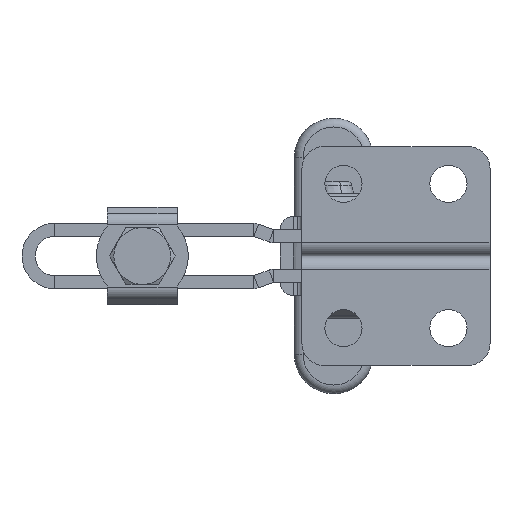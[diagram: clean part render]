
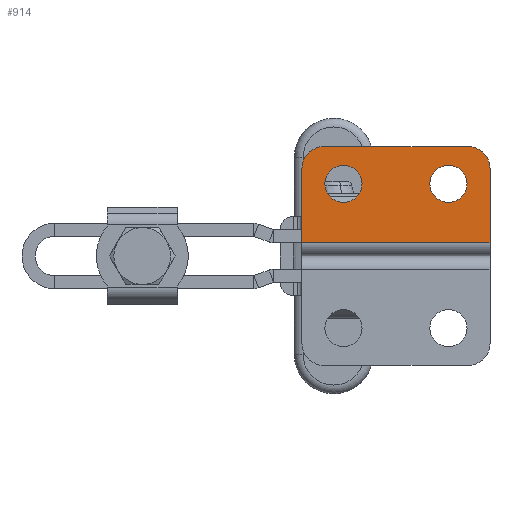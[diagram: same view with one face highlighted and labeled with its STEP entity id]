
A CAD part, front view. The second image highlights one B-rep face of the part: STEP entity #914.
In plain terms, the highlighted planar face has unit normal (0, -1, 0).
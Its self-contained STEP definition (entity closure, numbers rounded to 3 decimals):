
#27 = EDGE_CURVE ( 'NONE', #974, #1736, #481, .T. ) ;
#104 = DIRECTION ( 'NONE',  ( 0., 1., 0. ) ) ;
#141 = EDGE_CURVE ( 'NONE', #8863, #11666, #7803, .T. ) ;
#177 = CARTESIAN_POINT ( 'NONE',  ( 0., -3., 0. ) ) ;
#207 = FACE_BOUND ( 'NONE', #2457, .T. ) ;
#405 = VERTEX_POINT ( 'NONE', #2546 ) ;
#481 = LINE ( 'NONE', #6103, #10079 ) ;
#772 = CIRCLE ( 'NONE', #2289, 5. ) ;
#914 = ADVANCED_FACE ( 'NONE', ( #10590, #207, #10126 ), #9065, .F. ) ;
#932 = CARTESIAN_POINT ( 'NONE',  ( -9.5, -3., 13.5 ) ) ;
#974 = VERTEX_POINT ( 'NONE', #1783 ) ;
#1061 = CARTESIAN_POINT ( 'NONE',  ( 0., -3., 0. ) ) ;
#1168 = VECTOR ( 'NONE', #5373, 1000. ) ;
#1265 = CARTESIAN_POINT ( 'NONE',  ( -33.5, -3., 9.25 ) ) ;
#1376 = EDGE_CURVE ( 'NONE', #4121, #8105, #8255, .T. ) ;
#1490 = CARTESIAN_POINT ( 'NONE',  ( -5., -3., 17. ) ) ;
#1500 = DIRECTION ( 'NONE',  ( 1., 0., 0. ) ) ;
#1628 = DIRECTION ( 'NONE',  ( 0., 1., 0. ) ) ;
#1736 = VERTEX_POINT ( 'NONE', #3035 ) ;
#1746 = DIRECTION ( 'NONE',  ( 0., 0., 1. ) ) ;
#1783 = CARTESIAN_POINT ( 'NONE',  ( -43., -3., 0. ) ) ;
#1886 = DIRECTION ( 'NONE',  ( 0., 0., 1. ) ) ;
#1985 = DIRECTION ( 'NONE',  ( 0., 0., 1. ) ) ;
#2048 = DIRECTION ( 'NONE',  ( 0., -1., 0. ) ) ;
#2102 = CARTESIAN_POINT ( 'NONE',  ( -38., -3., 17. ) ) ;
#2172 = CIRCLE ( 'NONE', #2745, 5. ) ;
#2187 = CIRCLE ( 'NONE', #3295, 4.25 ) ;
#2271 = CARTESIAN_POINT ( 'NONE',  ( -38., -3., 22. ) ) ;
#2289 = AXIS2_PLACEMENT_3D ( 'NONE', #1490, #8637, #6816 ) ;
#2427 = EDGE_CURVE ( 'NONE', #405, #5869, #2187, .T. ) ;
#2445 = CARTESIAN_POINT ( 'NONE',  ( -43., -3., 22. ) ) ;
#2457 = EDGE_LOOP ( 'NONE', ( #7346, #9856 ) ) ;
#2461 = DIRECTION ( 'NONE',  ( 0., 0., 1. ) ) ;
#2546 = CARTESIAN_POINT ( 'NONE',  ( -9.5, -3., 9.25 ) ) ;
#2739 = AXIS2_PLACEMENT_3D ( 'NONE', #8053, #9008, #3678 ) ;
#2745 = AXIS2_PLACEMENT_3D ( 'NONE', #2102, #2048, #1985 ) ;
#2840 = EDGE_CURVE ( 'NONE', #974, #4121, #8996, .T. ) ;
#2957 = AXIS2_PLACEMENT_3D ( 'NONE', #4873, #1628, #2461 ) ;
#3035 = CARTESIAN_POINT ( 'NONE',  ( -43., -3., 17. ) ) ;
#3038 = EDGE_LOOP ( 'NONE', ( #4294, #8672, #3467, #6082, #6447, #3913 ) ) ;
#3119 = EDGE_LOOP ( 'NONE', ( #9472, #10871 ) ) ;
#3295 = AXIS2_PLACEMENT_3D ( 'NONE', #932, #4511, #8126 ) ;
#3399 = DIRECTION ( 'NONE',  ( 0., 0., 1. ) ) ;
#3467 = ORIENTED_EDGE ( 'NONE', *, *, #141, .F. ) ;
#3481 = AXIS2_PLACEMENT_3D ( 'NONE', #4891, #9571, #3399 ) ;
#3678 = DIRECTION ( 'NONE',  ( 0., 0., 1. ) ) ;
#3913 = ORIENTED_EDGE ( 'NONE', *, *, #2840, .T. ) ;
#4014 = VECTOR ( 'NONE', #1500, 1000. ) ;
#4121 = VERTEX_POINT ( 'NONE', #1061 ) ;
#4294 = ORIENTED_EDGE ( 'NONE', *, *, #1376, .T. ) ;
#4511 = DIRECTION ( 'NONE',  ( 0., 1., 0. ) ) ;
#4873 = CARTESIAN_POINT ( 'NONE',  ( -33.5, -3., 13.5 ) ) ;
#4891 = CARTESIAN_POINT ( 'NONE',  ( -33.5, -3., 13.5 ) ) ;
#5373 = DIRECTION ( 'NONE',  ( 1., 0., 0. ) ) ;
#5539 = CIRCLE ( 'NONE', #10274, 4.25 ) ;
#5619 = EDGE_CURVE ( 'NONE', #5869, #405, #5539, .T. ) ;
#5747 = VECTOR ( 'NONE', #1886, 1000. ) ;
#5753 = CIRCLE ( 'NONE', #2957, 4.25 ) ;
#5869 = VERTEX_POINT ( 'NONE', #11634 ) ;
#5987 = EDGE_CURVE ( 'NONE', #8863, #1736, #2172, .T. ) ;
#6082 = ORIENTED_EDGE ( 'NONE', *, *, #5987, .T. ) ;
#6103 = CARTESIAN_POINT ( 'NONE',  ( -43., -3., 0. ) ) ;
#6266 = CARTESIAN_POINT ( 'NONE',  ( -33.5, -3., 17.75 ) ) ;
#6447 = ORIENTED_EDGE ( 'NONE', *, *, #27, .F. ) ;
#6526 = CARTESIAN_POINT ( 'NONE',  ( 0., -3., 17. ) ) ;
#6816 = DIRECTION ( 'NONE',  ( 0., 0., 1. ) ) ;
#7160 = VERTEX_POINT ( 'NONE', #6266 ) ;
#7346 = ORIENTED_EDGE ( 'NONE', *, *, #10402, .T. ) ;
#7446 = CIRCLE ( 'NONE', #3481, 4.25 ) ;
#7803 = LINE ( 'NONE', #2445, #4014 ) ;
#7835 = EDGE_CURVE ( 'NONE', #8105, #11666, #772, .T. ) ;
#8053 = CARTESIAN_POINT ( 'NONE',  ( -43., -3., 0. ) ) ;
#8105 = VERTEX_POINT ( 'NONE', #6526 ) ;
#8126 = DIRECTION ( 'NONE',  ( 0., 0., 1. ) ) ;
#8255 = LINE ( 'NONE', #177, #5747 ) ;
#8637 = DIRECTION ( 'NONE',  ( 0., -1., 0. ) ) ;
#8672 = ORIENTED_EDGE ( 'NONE', *, *, #7835, .T. ) ;
#8863 = VERTEX_POINT ( 'NONE', #2271 ) ;
#8996 = LINE ( 'NONE', #11048, #1168 ) ;
#9008 = DIRECTION ( 'NONE',  ( 0., 1., 0. ) ) ;
#9065 = PLANE ( 'NONE',  #2739 ) ;
#9472 = ORIENTED_EDGE ( 'NONE', *, *, #5619, .T. ) ;
#9473 = EDGE_CURVE ( 'NONE', #11089, #7160, #5753, .T. ) ;
#9571 = DIRECTION ( 'NONE',  ( 0., 1., 0. ) ) ;
#9856 = ORIENTED_EDGE ( 'NONE', *, *, #9473, .T. ) ;
#10022 = CARTESIAN_POINT ( 'NONE',  ( -9.5, -3., 13.5 ) ) ;
#10079 = VECTOR ( 'NONE', #11407, 1000. ) ;
#10126 = FACE_OUTER_BOUND ( 'NONE', #3038, .T. ) ;
#10274 = AXIS2_PLACEMENT_3D ( 'NONE', #10022, #104, #1746 ) ;
#10402 = EDGE_CURVE ( 'NONE', #7160, #11089, #7446, .T. ) ;
#10590 = FACE_BOUND ( 'NONE', #3119, .T. ) ;
#10871 = ORIENTED_EDGE ( 'NONE', *, *, #2427, .T. ) ;
#11021 = CARTESIAN_POINT ( 'NONE',  ( -5., -3., 22. ) ) ;
#11048 = CARTESIAN_POINT ( 'NONE',  ( -43., -3., 0. ) ) ;
#11089 = VERTEX_POINT ( 'NONE', #1265 ) ;
#11407 = DIRECTION ( 'NONE',  ( 0., 0., 1. ) ) ;
#11634 = CARTESIAN_POINT ( 'NONE',  ( -9.5, -3., 17.75 ) ) ;
#11666 = VERTEX_POINT ( 'NONE', #11021 ) ;
